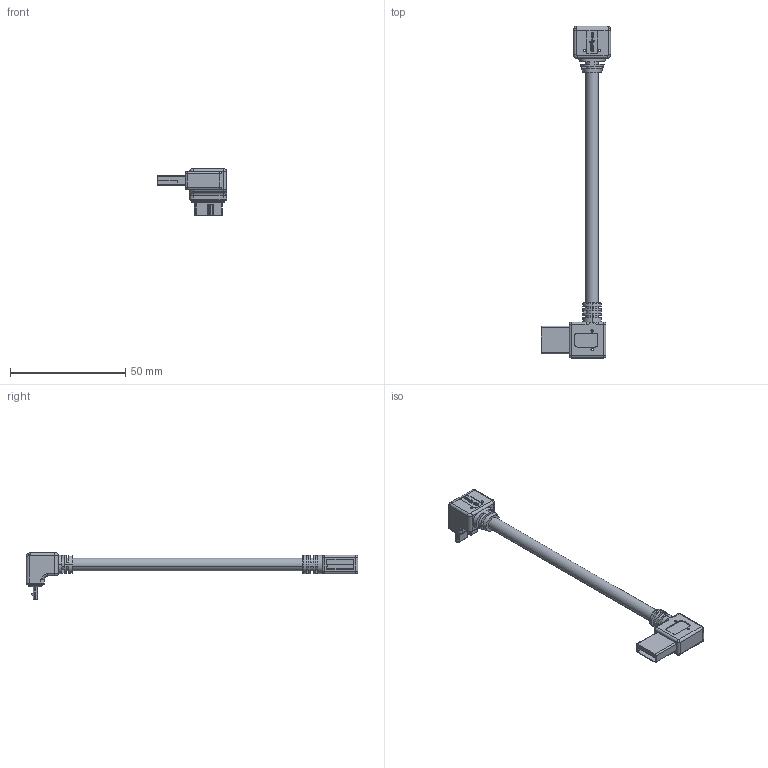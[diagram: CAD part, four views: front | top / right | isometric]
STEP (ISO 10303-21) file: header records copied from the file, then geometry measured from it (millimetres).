
FILE_DESCRIPTION (( 'STEP AP203' ), '1' );
FILE_NAME ('RR-ALMD-XXGR.STEP', '2015-09-09T03:55:24', ( '' ), ( '' ), 'SwSTEP 2.0', 'SolidWorks 2012', '' );
FILE_SCHEMA (( 'CONFIG_CONTROL_DESIGN' ));
Length unit declared in the file: millimetre
Products named in the file (8): RR-ALMD-XXGR; RR-AL; USB-A PLUG SHORT; AR&AL; Cable; RR-MD; Micro usb-b 3.0 plug; MU&MD
Assembly tree (7 placements, depth 3):
  RR-ALMD-XXGR
    RR-MD
      MU&MD
      Micro usb-b 3.0 plug
    Cable
    RR-AL
      AR&AL
      USB-A PLUG SHORT
Bounding box: 30 x 144 x 20.02 mm (x, y, z)
Volume: 8867.7 mm3; surface area: 6261.8 mm2
Topology: 5 solids, 5 shells, 584 faces, 1589 edges, 1026 vertices
Faces by surface type: cylinder 275, plane 266, torus 18, bspline 17, sphere 8
Entity records: 20321 total; most frequent: CARTESIAN_POINT 4405, DIRECTION 3270, ORIENTED_EDGE 3146, EDGE_CURVE 1573, AXIS2_PLACEMENT_3D 1173, VERTEX_POINT 1026, LINE 924, VECTOR 924
